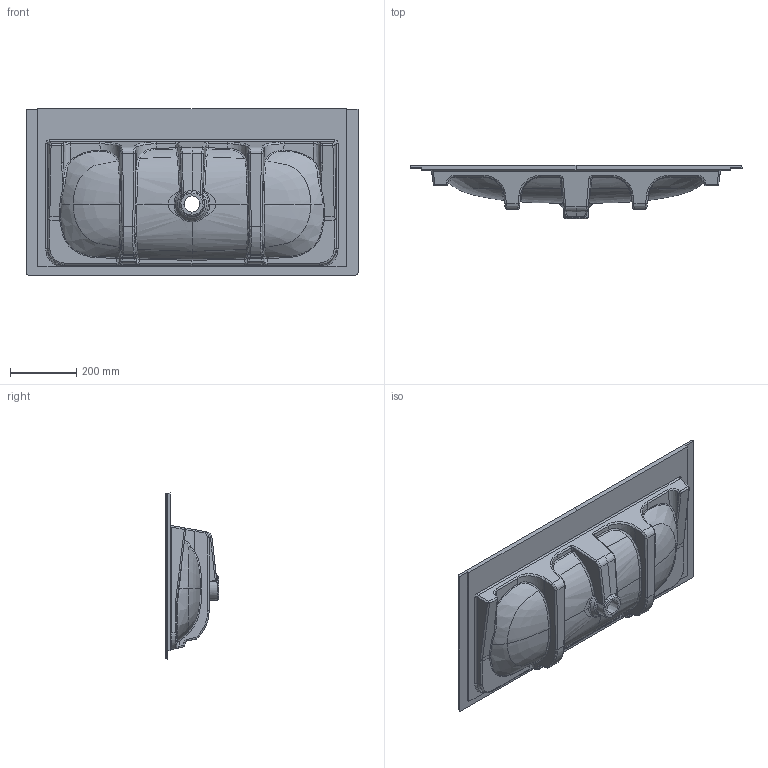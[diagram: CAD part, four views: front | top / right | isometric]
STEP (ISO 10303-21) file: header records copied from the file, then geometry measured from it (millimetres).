
FILE_DESCRIPTION(/* description */ (''),/* implementation_level */ '2;1');
FILE_NAME(/* name */ '4164A0_Finion_SWT.stp',/* time_stamp */ '2018-09-27T09:50:13+02:00',/* author */ (''),/* organization */ (''),/* preprocessor_version */ 'ST-DEVELOPER v16',/* originating_system */ 'SIEMENS PLM Software NX 10.0',/* authorisation */ '');
FILE_SCHEMA (('AUTOMOTIVE_DESIGN { 1 0 10303 214 3 1 1 1 }'));
Products named in the file (1): Conz1D508150pdwo
Bounding box: 999.79 x 161.5 x 500.13 mm (x, y, z)
Volume: 11026464.6 mm3; surface area: 1270233.6 mm2
Topology: 1 solids, 1 shells, 331 faces, 775 edges, 426 vertices
Faces by surface type: bspline 201, cylinder 65, plane 43, sphere 18, extrusion 4
Entity records: 37004 total; most frequent: CARTESIAN_POINT 31163, ORIENTED_EDGE 1510, DIRECTION 793, EDGE_CURVE 755, VERTEX_POINT 426, EDGE_LOOP 333, ADVANCED_FACE 331, FACE_OUTER_BOUND 330
